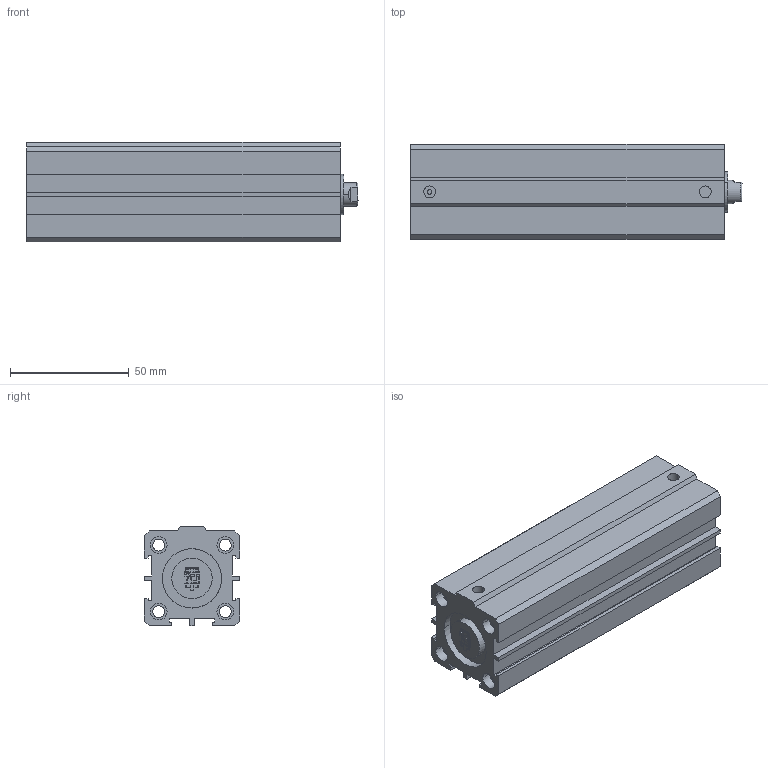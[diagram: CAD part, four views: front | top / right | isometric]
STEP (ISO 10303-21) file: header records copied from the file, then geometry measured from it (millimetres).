
FILE_DESCRIPTION(('CATIA V5 STEP Exchange'),'2;1');
FILE_NAME('D:\PDA\PDA-STP\PDA 25-10\PDA 25-10-100.stp','2016-02-02T10:39:08+00:00',('none'),('none'),'Version 5-6 Release 2012','CATIA V5 STEP AP203','none');
FILE_SCHEMA(('CONFIG_CONTROL_DESIGN'));
Length unit declared in the file: millimetre
Products named in the file (1): PDA 25-10-100-00
Assembly tree (2 placements, depth 2):
  PDA 25-10-100-00
    #58
    #6229
Bounding box: 139.75 x 40 x 42 mm (x, y, z)
Volume: 141063.5 mm3; surface area: 56707.4 mm2
Topology: 3 solids, 4 shells, 238 faces, 606 edges, 406 vertices
Faces by surface type: plane 166, cylinder 68, cone 4
Entity records: 6735 total; most frequent: ORIENTED_EDGE 1212, CARTESIAN_POINT 1202, DIRECTION 914, EDGE_CURVE 606, VECTOR 446, LINE 446, VERTEX_POINT 406, AXIS2_PLACEMENT_3D 310
